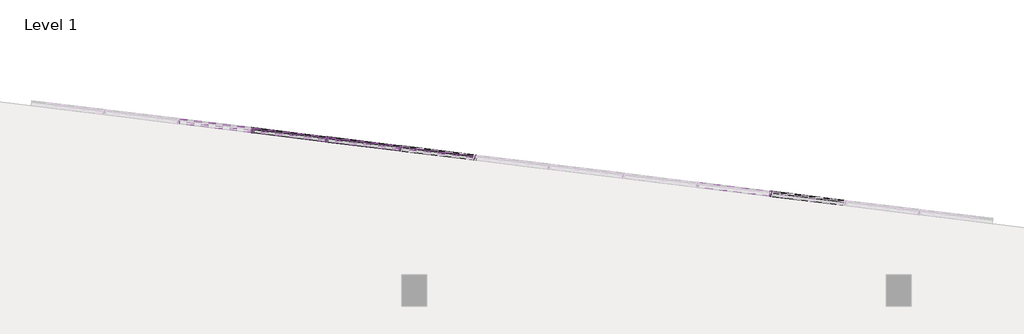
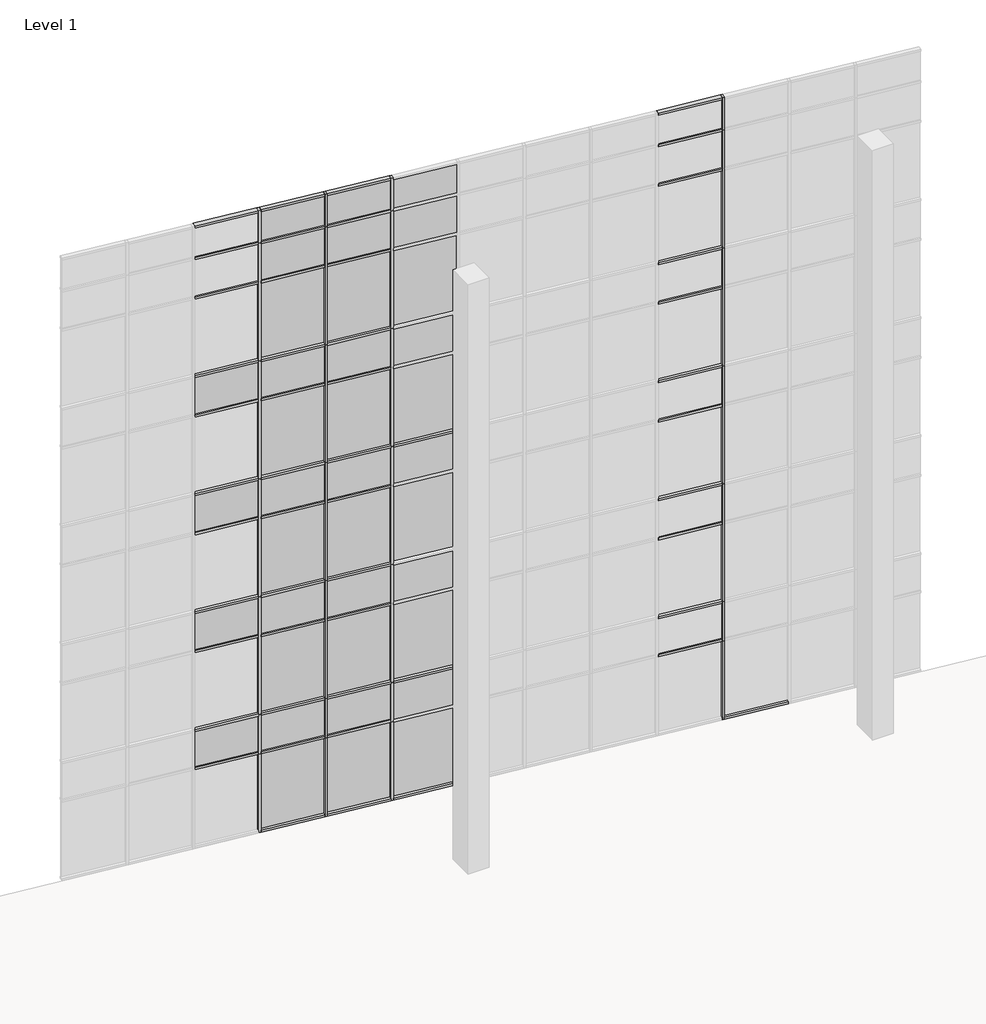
# One storey, part 18 of 23: 79 members, 37 plates.
"""IFC4 building model written with IfcOpenShell, lengths in millimetres."""

from ifc_helpers import new_model, si_unit, origin, place, context, project, spatial, transform, mapped, element, save
from components import member_2b49869a, member_f92b8aa2, member_810865a4, member_f0fea5a5, member_6d5c3e5e, member_9764dd38, system_panel_glazed_14c75400, system_panel_glazed_5b519c5a, system_panel_solid_5dfe6f83, system_panel_solid_e25e2004, system_panel_solid_b7551183

model = new_model("IFC4")

# Units and contexts
model_context = context("Model", 3, world=origin())
ifc_project = project(units=[si_unit("LENGTHUNIT", "METRE", prefix="MILLI")], contexts=[model_context])

# Site, building, storey
site = spatial("IfcSite", under=ifc_project)
building = spatial("IfcBuilding", under=site)
storey = spatial("IfcBuildingStorey", under=building, Name="Level 1", Elevation=0.0)

# Members
placement = place(None, origin())
member_shape = member_2b49869a(model_context)
element("IfcMember", 1, ObjectType="Rectangular Mullion : 2.5\" x 5\" rectangular", at=placement, inside=storey, context=model_context, shape_type="MappedRepresentation", body=[
    mapped(member_shape, transform((-12961.1731656, 13462.7931326, 2438.4), x_axis=(0.9925461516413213, -0.12186934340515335, 0.0), y_axis=(-0.12186934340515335, -0.9925461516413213, 0.0), z_axis=(0.0, 0.0, -1.0))),
])
element("IfcMember", 2, ObjectType="Rectangular Mullion : 2.5\" x 5\" rectangular", at=placement, inside=storey, context=model_context, shape_type="MappedRepresentation", body=[
    mapped(member_shape, transform((-11146.0047635, 13239.9184774, 2438.4), x_axis=(0.9925461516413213, -0.12186934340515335, 0.0), y_axis=(-0.12186934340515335, -0.9925461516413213, 0.0), z_axis=(0.0, 0.0, -1.0))),
])
element("IfcMember", 3, ObjectType="Rectangular Mullion : 2.5\" x 5\" rectangular", at=placement, inside=storey, context=model_context, shape_type="MappedRepresentation", body=[
    mapped(member_shape, transform((-254.9943507, 11902.6705461, 2438.4), x_axis=(0.9925461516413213, -0.12186934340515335, 0.0), y_axis=(-0.12186934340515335, -0.9925461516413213, 0.0), z_axis=(0.0, 0.0, -1.0))),
])
member_2_shape = member_f92b8aa2(model_context)
element("IfcMember", 4, ObjectType="Rectangular Mullion : 2.5\" x 5\" rectangular", at=placement, inside=storey, context=model_context, shape_type="MappedRepresentation", body=[
    mapped(member_2_shape, transform((-12961.1731656, 13462.7931326, 18288.0), x_axis=(0.9925461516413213, -0.12186934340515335, 0.0), y_axis=(-0.12186934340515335, -0.9925461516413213, 0.0), z_axis=(0.0, 0.0, -1.0))),
])
element("IfcMember", 5, ObjectType="Rectangular Mullion : 2.5\" x 5\" rectangular", at=placement, inside=storey, context=model_context, shape_type="MappedRepresentation", body=[
    mapped(member_2_shape, transform((-9330.8363614, 13017.0438222, 18288.0), x_axis=(0.9925461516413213, -0.12186934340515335, 0.0), y_axis=(-0.12186934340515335, -0.9925461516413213, 0.0), z_axis=(0.0, 0.0, -1.0))),
])
element("IfcMember", 6, ObjectType="Rectangular Mullion : 2.5\" x 5\" rectangular", at=placement, inside=storey, context=model_context, shape_type="MappedRepresentation", body=[
    mapped(member_2_shape, transform((-11146.0047635, 13239.9184774, 18288.0), x_axis=(0.9925461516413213, -0.12186934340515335, 0.0), y_axis=(-0.12186934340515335, -0.9925461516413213, 0.0), z_axis=(0.0, 0.0, -1.0))),
])
element("IfcMember", 7, ObjectType="Rectangular Mullion : 2.5\" x 5\" rectangular", at=placement, inside=storey, context=model_context, shape_type="MappedRepresentation", body=[
    mapped(member_2_shape, transform((-254.9943507, 11902.6705461, 18288.0), x_axis=(0.9925461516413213, -0.12186934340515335, 0.0), y_axis=(-0.12186934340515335, -0.9925461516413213, 0.0), z_axis=(0.0, 0.0, -1.0))),
])
member_3_shape = member_810865a4(model_context)
element("IfcMember", 8, ObjectType="Rectangular Mullion : 2.5\" x 5\" rectangular", at=placement, inside=storey, context=model_context, shape_type="MappedRepresentation", body=[
    mapped(member_3_shape, transform((-11146.0047635, 13239.9184774, 3657.6), x_axis=(0.9925461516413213, -0.12186934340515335, 0.0), y_axis=(-0.12186934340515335, -0.9925461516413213, 0.0), z_axis=(0.0, 0.0, -1.0))),
])
element("IfcMember", 9, ObjectType="Rectangular Mullion : 2.5\" x 5\" rectangular", at=placement, inside=storey, context=model_context, shape_type="MappedRepresentation", body=[
    mapped(member_3_shape, transform((-12961.1731656, 13462.7931326, 14630.4), x_axis=(0.9925461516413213, -0.12186934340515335, 0.0), y_axis=(-0.12186934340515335, -0.9925461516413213, 0.0), z_axis=(0.0, 0.0, -1.0))),
])
element("IfcMember", 10, ObjectType="Rectangular Mullion : 2.5\" x 5\" rectangular", at=placement, inside=storey, context=model_context, shape_type="MappedRepresentation", body=[
    mapped(member_3_shape, transform((-12961.1731656, 13462.7931326, 10972.8), x_axis=(0.9925461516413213, -0.12186934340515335, 0.0), y_axis=(-0.12186934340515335, -0.9925461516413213, 0.0), z_axis=(0.0, 0.0, -1.0))),
])
element("IfcMember", 11, ObjectType="Rectangular Mullion : 2.5\" x 5\" rectangular", at=placement, inside=storey, context=model_context, shape_type="MappedRepresentation", body=[
    mapped(member_3_shape, transform((-12961.1731656, 13462.7931326, 7315.2), x_axis=(0.9925461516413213, -0.12186934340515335, 0.0), y_axis=(-0.12186934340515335, -0.9925461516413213, 0.0), z_axis=(0.0, 0.0, -1.0))),
])
element("IfcMember", 12, ObjectType="Rectangular Mullion : 2.5\" x 5\" rectangular", at=placement, inside=storey, context=model_context, shape_type="MappedRepresentation", body=[
    mapped(member_3_shape, transform((-12961.1731656, 13462.7931326, 3657.6), x_axis=(0.9925461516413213, -0.12186934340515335, 0.0), y_axis=(-0.12186934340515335, -0.9925461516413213, 0.0), z_axis=(0.0, 0.0, -1.0))),
])
element("IfcMember", 13, ObjectType="Rectangular Mullion : 2.5\" x 5\" rectangular", at=placement, inside=storey, context=model_context, shape_type="MappedRepresentation", body=[
    mapped(member_3_shape, transform((-9330.8363614, 13017.0438222, 14630.4), x_axis=(0.9925461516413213, -0.12186934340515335, 0.0), y_axis=(-0.12186934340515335, -0.9925461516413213, 0.0), z_axis=(0.0, 0.0, -1.0))),
])
element("IfcMember", 14, ObjectType="Rectangular Mullion : 2.5\" x 5\" rectangular", at=placement, inside=storey, context=model_context, shape_type="MappedRepresentation", body=[
    mapped(member_3_shape, transform((-9330.8363614, 13017.0438222, 10972.8), x_axis=(0.9925461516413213, -0.12186934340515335, 0.0), y_axis=(-0.12186934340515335, -0.9925461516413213, 0.0), z_axis=(0.0, 0.0, -1.0))),
])
element("IfcMember", 15, ObjectType="Rectangular Mullion : 2.5\" x 5\" rectangular", at=placement, inside=storey, context=model_context, shape_type="MappedRepresentation", body=[
    mapped(member_3_shape, transform((-9330.8363614, 13017.0438222, 7315.2), x_axis=(0.9925461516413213, -0.12186934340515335, 0.0), y_axis=(-0.12186934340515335, -0.9925461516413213, 0.0), z_axis=(0.0, 0.0, -1.0))),
])
element("IfcMember", 16, ObjectType="Rectangular Mullion : 2.5\" x 5\" rectangular", at=placement, inside=storey, context=model_context, shape_type="MappedRepresentation", body=[
    mapped(member_3_shape, transform((-9330.8363614, 13017.0438222, 3657.6), x_axis=(0.9925461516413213, -0.12186934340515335, 0.0), y_axis=(-0.12186934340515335, -0.9925461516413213, 0.0), z_axis=(0.0, 0.0, -1.0))),
])
element("IfcMember", 17, ObjectType="Rectangular Mullion : 2.5\" x 5\" rectangular", at=placement, inside=storey, context=model_context, shape_type="MappedRepresentation", body=[
    mapped(member_3_shape, transform((-11146.0047635, 13239.9184774, 14630.4), x_axis=(0.9925461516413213, -0.12186934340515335, 0.0), y_axis=(-0.12186934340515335, -0.9925461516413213, 0.0), z_axis=(0.0, 0.0, -1.0))),
])
element("IfcMember", 18, ObjectType="Rectangular Mullion : 2.5\" x 5\" rectangular", at=placement, inside=storey, context=model_context, shape_type="MappedRepresentation", body=[
    mapped(member_3_shape, transform((-11146.0047635, 13239.9184774, 10972.8), x_axis=(0.9925461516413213, -0.12186934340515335, 0.0), y_axis=(-0.12186934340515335, -0.9925461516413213, 0.0), z_axis=(0.0, 0.0, -1.0))),
])
element("IfcMember", 19, ObjectType="Rectangular Mullion : 2.5\" x 5\" rectangular", at=placement, inside=storey, context=model_context, shape_type="MappedRepresentation", body=[
    mapped(member_3_shape, transform((-11146.0047635, 13239.9184774, 7315.2), x_axis=(0.9925461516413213, -0.12186934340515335, 0.0), y_axis=(-0.12186934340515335, -0.9925461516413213, 0.0), z_axis=(0.0, 0.0, -1.0))),
])
element("IfcMember", 20, ObjectType="Rectangular Mullion : 2.5\" x 5\" rectangular", at=placement, inside=storey, context=model_context, shape_type="MappedRepresentation", body=[
    mapped(member_3_shape, transform((-254.9943507, 11902.6705461, 14630.4), x_axis=(0.9925461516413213, -0.12186934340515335, 0.0), y_axis=(-0.12186934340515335, -0.9925461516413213, 0.0), z_axis=(0.0, 0.0, -1.0))),
])
element("IfcMember", 21, ObjectType="Rectangular Mullion : 2.5\" x 5\" rectangular", at=placement, inside=storey, context=model_context, shape_type="MappedRepresentation", body=[
    mapped(member_3_shape, transform((-254.9943507, 11902.6705461, 10972.8), x_axis=(0.9925461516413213, -0.12186934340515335, 0.0), y_axis=(-0.12186934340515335, -0.9925461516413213, 0.0), z_axis=(0.0, 0.0, -1.0))),
])
element("IfcMember", 22, ObjectType="Rectangular Mullion : 2.5\" x 5\" rectangular", at=placement, inside=storey, context=model_context, shape_type="MappedRepresentation", body=[
    mapped(member_3_shape, transform((-254.9943507, 11902.6705461, 7315.2), x_axis=(0.9925461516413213, -0.12186934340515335, 0.0), y_axis=(-0.12186934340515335, -0.9925461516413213, 0.0), z_axis=(0.0, 0.0, -1.0))),
])
element("IfcMember", 23, ObjectType="Rectangular Mullion : 2.5\" x 5\" rectangular", at=placement, inside=storey, context=model_context, shape_type="MappedRepresentation", body=[
    mapped(member_3_shape, transform((-254.9943507, 11902.6705461, 3657.6), x_axis=(0.9925461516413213, -0.12186934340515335, 0.0), y_axis=(-0.12186934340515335, -0.9925461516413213, 0.0), z_axis=(0.0, 0.0, -1.0))),
])
member_4_shape = member_f0fea5a5(model_context)
element("IfcMember", 24, ObjectType="Rectangular Mullion : 2.5\" x 5\" rectangular", at=placement, inside=storey, context=model_context, shape_type="MappedRepresentation", body=[
    mapped(member_4_shape, transform((-11146.0047635, 13239.9184774, 0.0), x_axis=(0.9925461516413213, -0.12186934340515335, 0.0), y_axis=(-0.12186934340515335, -0.9925461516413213, 0.0), z_axis=(0.0, 0.0, -1.0))),
])
element("IfcMember", 25, ObjectType="Rectangular Mullion : 2.5\" x 5\" rectangular", at=placement, inside=storey, context=model_context, shape_type="MappedRepresentation", body=[
    mapped(member_4_shape, transform((-12961.1731656, 13462.7931326, 0.0), x_axis=(0.9925461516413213, -0.12186934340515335, 0.0), y_axis=(-0.12186934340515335, -0.9925461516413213, 0.0), z_axis=(0.0, 0.0, -1.0))),
])
element("IfcMember", 26, ObjectType="Rectangular Mullion : 2.5\" x 5\" rectangular", at=placement, inside=storey, context=model_context, shape_type="MappedRepresentation", body=[
    mapped(member_4_shape, transform((-254.9943507, 11902.6705461, 0.0), x_axis=(0.9925461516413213, -0.12186934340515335, 0.0), y_axis=(-0.12186934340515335, -0.9925461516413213, 0.0), z_axis=(0.0, 0.0, -1.0))),
])
element("IfcMember", 27, ObjectType="Rectangular Mullion : 2.5\" x 5\" rectangular", at=placement, inside=storey, context=model_context, shape_type="MappedRepresentation", body=[
    mapped(member_4_shape, transform((-7515.6679592, 12794.169167, 0.0), x_axis=(0.9925461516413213, -0.12186934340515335, 0.0), y_axis=(-0.12186934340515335, -0.9925461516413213, 0.0), z_axis=(0.0, 0.0, -1.0))),
])
element("IfcMember", 28, ObjectType="Rectangular Mullion : 2.5\" x 5\" rectangular", at=placement, inside=storey, context=model_context, shape_type="MappedRepresentation", body=[
    mapped(member_4_shape, transform((-9330.8363614, 13017.0438222, 0.0), x_axis=(0.9925461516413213, -0.12186934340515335, 0.0), y_axis=(-0.12186934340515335, -0.9925461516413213, 0.0), z_axis=(0.0, 0.0, -1.0))),
])
element("IfcMember", 29, ObjectType="Rectangular Mullion : 2.5\" x 5\" rectangular", at=placement, inside=storey, context=model_context, shape_type="MappedRepresentation", body=[
    mapped(member_shape, transform((-9330.8363614, 13017.0438222, 2438.4), x_axis=(0.9925461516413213, -0.12186934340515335, 0.0), y_axis=(-0.12186934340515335, -0.9925461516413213, 0.0), z_axis=(0.0, 0.0, -1.0))),
])
member_5_shape = member_6d5c3e5e(model_context)
element("IfcMember", 30, ObjectType="Rectangular Mullion : 2.5\" x 5\" rectangular", at=placement, inside=storey, context=model_context, shape_type="MappedRepresentation", body=[
    mapped(member_5_shape, transform((-9362.3497017, 13020.9131738, 19304.0), x_axis=(0.0, 0.0, 1.0), y_axis=(-0.12186934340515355, -0.9925461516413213, 0.0), z_axis=(0.9925461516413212, -0.12186934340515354, 0.0))),
])
element("IfcMember", 31, ObjectType="Rectangular Mullion : 2.5\" x 5\" rectangular", at=placement, inside=storey, context=model_context, shape_type="MappedRepresentation", body=[
    mapped(member_5_shape, transform((-11177.5181038, 13243.7878291, 19304.0), x_axis=(0.0, 0.0, 1.0), y_axis=(-0.12186934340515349, -0.9925461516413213, 0.0), z_axis=(0.9925461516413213, -0.12186934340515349, 0.0))),
])
element("IfcMember", 32, ObjectType="Rectangular Mullion : 2.5\" x 5\" rectangular", at=placement, inside=storey, context=model_context, shape_type="MappedRepresentation", body=[
    mapped(member_5_shape, transform((-12992.6865059, 13466.6624843, 19304.0), x_axis=(0.0, 0.0, 1.0), y_axis=(-0.12186934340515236, -0.9925461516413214, 0.0), z_axis=(0.9925461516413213, -0.12186934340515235, 0.0))),
])
element("IfcMember", 33, ObjectType="Rectangular Mullion : 2.5\" x 5\" rectangular", at=placement, inside=storey, context=model_context, shape_type="MappedRepresentation", body=[
    mapped(member_5_shape, transform((-286.5076911, 11906.5398977, 19304.0), x_axis=(0.0, 0.0, 1.0), y_axis=(-0.12186934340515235, -0.9925461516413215, 0.0), z_axis=(0.9925461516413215, -0.12186934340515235, 0.0))),
])
member_6_shape = member_9764dd38(model_context)
element("IfcMember", 34, ObjectType="Rectangular Mullion : 2.5\" x 5\" rectangular", at=placement, inside=storey, context=model_context, shape_type="MappedRepresentation", body=[
    mapped(member_6_shape, transform((-286.5076911, 11906.5398977, 17068.8), x_axis=(0.0, 0.0, 1.0), y_axis=(-0.12186934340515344, -0.9925461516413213, 0.0), z_axis=(0.9925461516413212, -0.12186934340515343, 0.0))),
])
element("IfcMember", 35, ObjectType="Rectangular Mullion : 2.5\" x 5\" rectangular", at=placement, inside=storey, context=model_context, shape_type="MappedRepresentation", body=[
    mapped(member_6_shape, transform((-9362.3497017, 13020.9131738, 17068.8), x_axis=(0.0, 0.0, 1.0), y_axis=(-0.12186934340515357, -0.9925461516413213, 0.0), z_axis=(0.9925461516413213, -0.12186934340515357, 0.0))),
])
element("IfcMember", 36, ObjectType="Rectangular Mullion : 2.5\" x 5\" rectangular", at=placement, inside=storey, context=model_context, shape_type="MappedRepresentation", body=[
    mapped(member_6_shape, transform((-11177.5181038, 13243.7878291, 17068.8), x_axis=(0.0, 0.0, 1.0), y_axis=(-0.12186934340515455, -0.9925461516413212, 0.0), z_axis=(0.9925461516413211, -0.12186934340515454, 0.0))),
])
element("IfcMember", 37, ObjectType="Rectangular Mullion : 2.5\" x 5\" rectangular", at=placement, inside=storey, context=model_context, shape_type="MappedRepresentation", body=[
    mapped(member_6_shape, transform((-12992.6865059, 13466.6624843, 17068.8), x_axis=(0.0, 0.0, 1.0), y_axis=(-0.12186934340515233, -0.9925461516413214, 0.0), z_axis=(0.9925461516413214, -0.12186934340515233, 0.0))),
])
element("IfcMember", 38, ObjectType="Rectangular Mullion : 2.5\" x 5\" rectangular", at=placement, inside=storey, context=model_context, shape_type="MappedRepresentation", body=[
    mapped(member_6_shape, transform((-286.5076911, 11906.5398977, 13411.2), x_axis=(0.0, 0.0, 1.0), y_axis=(-0.12186934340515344, -0.9925461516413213, 0.0), z_axis=(0.9925461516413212, -0.12186934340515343, 0.0))),
])
element("IfcMember", 39, ObjectType="Rectangular Mullion : 2.5\" x 5\" rectangular", at=placement, inside=storey, context=model_context, shape_type="MappedRepresentation", body=[
    mapped(member_6_shape, transform((-9362.3497017, 13020.9131738, 13411.2), x_axis=(0.0, 0.0, 1.0), y_axis=(-0.12186934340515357, -0.9925461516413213, 0.0), z_axis=(0.9925461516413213, -0.12186934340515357, 0.0))),
])
element("IfcMember", 40, ObjectType="Rectangular Mullion : 2.5\" x 5\" rectangular", at=placement, inside=storey, context=model_context, shape_type="MappedRepresentation", body=[
    mapped(member_6_shape, transform((-11177.5181038, 13243.7878291, 13411.2), x_axis=(0.0, 0.0, 1.0), y_axis=(-0.12186934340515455, -0.9925461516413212, 0.0), z_axis=(0.9925461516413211, -0.12186934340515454, 0.0))),
])
element("IfcMember", 41, ObjectType="Rectangular Mullion : 2.5\" x 5\" rectangular", at=placement, inside=storey, context=model_context, shape_type="MappedRepresentation", body=[
    mapped(member_6_shape, transform((-12992.6865059, 13466.6624843, 13411.2), x_axis=(0.0, 0.0, 1.0), y_axis=(-0.12186934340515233, -0.9925461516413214, 0.0), z_axis=(0.9925461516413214, -0.12186934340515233, 0.0))),
])
element("IfcMember", 42, ObjectType="Rectangular Mullion : 2.5\" x 5\" rectangular", at=placement, inside=storey, context=model_context, shape_type="MappedRepresentation", body=[
    mapped(member_6_shape, transform((-286.5076911, 11906.5398977, 9753.6), x_axis=(0.0, 0.0, 1.0), y_axis=(-0.12186934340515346, -0.9925461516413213, 0.0), z_axis=(0.9925461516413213, -0.12186934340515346, 0.0))),
])
element("IfcMember", 43, ObjectType="Rectangular Mullion : 2.5\" x 5\" rectangular", at=placement, inside=storey, context=model_context, shape_type="MappedRepresentation", body=[
    mapped(member_6_shape, transform((-9362.3497017, 13020.9131738, 9753.6), x_axis=(0.0, 0.0, 1.0), y_axis=(-0.12186934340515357, -0.9925461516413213, 0.0), z_axis=(0.9925461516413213, -0.12186934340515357, 0.0))),
])
element("IfcMember", 44, ObjectType="Rectangular Mullion : 2.5\" x 5\" rectangular", at=placement, inside=storey, context=model_context, shape_type="MappedRepresentation", body=[
    mapped(member_6_shape, transform((-11177.5181038, 13243.7878291, 9753.6), x_axis=(0.0, 0.0, 1.0), y_axis=(-0.12186934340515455, -0.9925461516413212, 0.0), z_axis=(0.9925461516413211, -0.12186934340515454, 0.0))),
])
element("IfcMember", 45, ObjectType="Rectangular Mullion : 2.5\" x 5\" rectangular", at=placement, inside=storey, context=model_context, shape_type="MappedRepresentation", body=[
    mapped(member_6_shape, transform((-12992.6865059, 13466.6624843, 9753.6), x_axis=(0.0, 0.0, 1.0), y_axis=(-0.12186934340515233, -0.9925461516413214, 0.0), z_axis=(0.9925461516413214, -0.12186934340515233, 0.0))),
])
element("IfcMember", 46, ObjectType="Rectangular Mullion : 2.5\" x 5\" rectangular", at=placement, inside=storey, context=model_context, shape_type="MappedRepresentation", body=[
    mapped(member_6_shape, transform((-286.5076911, 11906.5398977, 6096.0), x_axis=(0.0, 0.0, 1.0), y_axis=(-0.12186934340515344, -0.9925461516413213, 0.0), z_axis=(0.9925461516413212, -0.12186934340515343, 0.0))),
])
element("IfcMember", 47, ObjectType="Rectangular Mullion : 2.5\" x 5\" rectangular", at=placement, inside=storey, context=model_context, shape_type="MappedRepresentation", body=[
    mapped(member_6_shape, transform((-9362.3497017, 13020.9131738, 6096.0), x_axis=(0.0, 0.0, 1.0), y_axis=(-0.12186934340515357, -0.9925461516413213, 0.0), z_axis=(0.9925461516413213, -0.12186934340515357, 0.0))),
])
element("IfcMember", 48, ObjectType="Rectangular Mullion : 2.5\" x 5\" rectangular", at=placement, inside=storey, context=model_context, shape_type="MappedRepresentation", body=[
    mapped(member_6_shape, transform((-11177.5181038, 13243.7878291, 6096.0), x_axis=(0.0, 0.0, 1.0), y_axis=(-0.12186934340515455, -0.9925461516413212, 0.0), z_axis=(0.9925461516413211, -0.12186934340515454, 0.0))),
])
element("IfcMember", 49, ObjectType="Rectangular Mullion : 2.5\" x 5\" rectangular", at=placement, inside=storey, context=model_context, shape_type="MappedRepresentation", body=[
    mapped(member_6_shape, transform((-12992.6865059, 13466.6624843, 6096.0), x_axis=(0.0, 0.0, 1.0), y_axis=(-0.12186934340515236, -0.9925461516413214, 0.0), z_axis=(0.9925461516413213, -0.12186934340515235, 0.0))),
])
element("IfcMember", 50, ObjectType="Rectangular Mullion : 2.5\" x 5\" rectangular", at=placement, inside=storey, context=model_context, shape_type="MappedRepresentation", body=[
    mapped(member_6_shape, transform((-286.5076911, 11906.5398977, 2470.15), x_axis=(0.0, 0.0, 1.0), y_axis=(-0.12186934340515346, -0.9925461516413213, 0.0), z_axis=(0.9925461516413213, -0.12186934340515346, 0.0))),
])
element("IfcMember", 51, ObjectType="Rectangular Mullion : 2.5\" x 5\" rectangular", at=placement, inside=storey, context=model_context, shape_type="MappedRepresentation", body=[
    mapped(member_6_shape, transform((-9362.3497017, 13020.9131738, 2470.15), x_axis=(0.0, 0.0, 1.0), y_axis=(-0.12186934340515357, -0.9925461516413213, 0.0), z_axis=(0.9925461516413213, -0.12186934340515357, 0.0))),
])
element("IfcMember", 52, ObjectType="Rectangular Mullion : 2.5\" x 5\" rectangular", at=placement, inside=storey, context=model_context, shape_type="MappedRepresentation", body=[
    mapped(member_6_shape, transform((-11177.5181038, 13243.7878291, 2470.15), x_axis=(0.0, 0.0, 1.0), y_axis=(-0.12186934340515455, -0.9925461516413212, 0.0), z_axis=(0.9925461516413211, -0.12186934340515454, 0.0))),
])
element("IfcMember", 53, ObjectType="Rectangular Mullion : 2.5\" x 5\" rectangular", at=placement, inside=storey, context=model_context, shape_type="MappedRepresentation", body=[
    mapped(member_6_shape, transform((-12992.6865059, 13466.6624843, 2470.15), x_axis=(0.0, 0.0, 1.0), y_axis=(-0.12186934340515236, -0.9925461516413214, 0.0), z_axis=(0.9925461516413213, -0.12186934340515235, 0.0))),
])
element("IfcMember", 54, ObjectType="Rectangular Mullion : 2.5\" x 5\" rectangular", at=placement, inside=storey, context=model_context, shape_type="MappedRepresentation", body=[
    mapped(member_5_shape, transform((-223.4810104, 11898.8011944, 0.0), x_axis=(0.0, 0.0, -1.0), y_axis=(-0.12186934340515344, -0.9925461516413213, 0.0), z_axis=(-0.9925461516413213, 0.12186934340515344, 0.0))),
])
element("IfcMember", 55, ObjectType="Rectangular Mullion : 2.5\" x 5\" rectangular", at=placement, inside=storey, context=model_context, shape_type="MappedRepresentation", body=[
    mapped(member_5_shape, transform((-11114.4914232, 13236.0491257, 0.0), x_axis=(0.0, 0.0, -1.0), y_axis=(-0.12186934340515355, -0.9925461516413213, 0.0), z_axis=(-0.9925461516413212, 0.12186934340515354, 0.0))),
])
element("IfcMember", 56, ObjectType="Rectangular Mullion : 2.5\" x 5\" rectangular", at=placement, inside=storey, context=model_context, shape_type="MappedRepresentation", body=[
    mapped(member_5_shape, transform((-12929.6598253, 13458.923781, 0.0), x_axis=(0.0, 0.0, -1.0), y_axis=(-0.12186934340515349, -0.9925461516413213, 0.0), z_axis=(-0.9925461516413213, 0.12186934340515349, 0.0))),
])
element("IfcMember", 57, ObjectType="Rectangular Mullion : 2.5\" x 5\" rectangular", at=placement, inside=storey, context=model_context, shape_type="MappedRepresentation", body=[
    mapped(member_5_shape, transform((-9299.323021, 13013.1744705, 0.0), x_axis=(0.0, 0.0, -1.0), y_axis=(-0.12186934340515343, -0.9925461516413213, 0.0), z_axis=(-0.9925461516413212, 0.12186934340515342, 0.0))),
])
element("IfcMember", 58, ObjectType="Rectangular Mullion : 2.5\" x 5\" rectangular", at=placement, inside=storey, context=model_context, shape_type="MappedRepresentation", body=[
    mapped(member_6_shape, transform((-286.5076911, 11906.5398977, 3657.6), x_axis=(0.0, 0.0, 1.0), y_axis=(-0.12186934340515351, -0.9925461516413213, 0.0), z_axis=(0.9925461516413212, -0.1218693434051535, 0.0))),
])
element("IfcMember", 59, ObjectType="Rectangular Mullion : 2.5\" x 5\" rectangular", at=placement, inside=storey, context=model_context, shape_type="MappedRepresentation", body=[
    mapped(member_6_shape, transform((-7547.1812995, 12798.0385186, 3657.6), x_axis=(0.0, 0.0, 1.0), y_axis=(-0.12186934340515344, -0.9925461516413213, 0.0), z_axis=(0.9925461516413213, -0.12186934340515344, 0.0))),
])
element("IfcMember", 60, ObjectType="Rectangular Mullion : 2.5\" x 5\" rectangular", at=placement, inside=storey, context=model_context, shape_type="MappedRepresentation", body=[
    mapped(member_6_shape, transform((-9362.3497017, 13020.9131738, 3657.6), x_axis=(0.0, 0.0, 1.0), y_axis=(-0.12186934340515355, -0.9925461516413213, 0.0), z_axis=(0.9925461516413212, -0.12186934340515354, 0.0))),
])
element("IfcMember", 61, ObjectType="Rectangular Mullion : 2.5\" x 5\" rectangular", at=placement, inside=storey, context=model_context, shape_type="MappedRepresentation", body=[
    mapped(member_6_shape, transform((-11177.5181038, 13243.7878291, 3657.6), x_axis=(0.0, 0.0, 1.0), y_axis=(-0.12186934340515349, -0.9925461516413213, 0.0), z_axis=(0.9925461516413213, -0.12186934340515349, 0.0))),
])
element("IfcMember", 62, ObjectType="Rectangular Mullion : 2.5\" x 5\" rectangular", at=placement, inside=storey, context=model_context, shape_type="MappedRepresentation", body=[
    mapped(member_6_shape, transform((-12992.6865059, 13466.6624843, 3657.6), x_axis=(0.0, 0.0, 1.0), y_axis=(-0.12186934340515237, -0.9925461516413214, 0.0), z_axis=(0.9925461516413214, -0.12186934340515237, 0.0))),
])
element("IfcMember", 63, ObjectType="Rectangular Mullion : 2.5\" x 5\" rectangular", at=placement, inside=storey, context=model_context, shape_type="MappedRepresentation", body=[
    mapped(member_6_shape, transform((-286.5076911, 11906.5398977, 10972.8), x_axis=(0.0, 0.0, 1.0), y_axis=(-0.12186934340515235, -0.9925461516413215, 0.0), z_axis=(0.9925461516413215, -0.12186934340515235, 0.0))),
])
element("IfcMember", 64, ObjectType="Rectangular Mullion : 2.5\" x 5\" rectangular", at=placement, inside=storey, context=model_context, shape_type="MappedRepresentation", body=[
    mapped(member_6_shape, transform((-7547.1812995, 12798.0385186, 10972.8), x_axis=(0.0, 0.0, 1.0), y_axis=(-0.12186934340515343, -0.9925461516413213, 0.0), z_axis=(0.9925461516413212, -0.12186934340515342, 0.0))),
])
element("IfcMember", 65, ObjectType="Rectangular Mullion : 2.5\" x 5\" rectangular", at=placement, inside=storey, context=model_context, shape_type="MappedRepresentation", body=[
    mapped(member_6_shape, transform((-9362.3497017, 13020.9131738, 10972.8), x_axis=(0.0, 0.0, 1.0), y_axis=(-0.12186934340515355, -0.9925461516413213, 0.0), z_axis=(0.9925461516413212, -0.12186934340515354, 0.0))),
])
element("IfcMember", 66, ObjectType="Rectangular Mullion : 2.5\" x 5\" rectangular", at=placement, inside=storey, context=model_context, shape_type="MappedRepresentation", body=[
    mapped(member_6_shape, transform((-11177.5181038, 13243.7878291, 10972.8), x_axis=(0.0, 0.0, 1.0), y_axis=(-0.12186934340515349, -0.9925461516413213, 0.0), z_axis=(0.9925461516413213, -0.12186934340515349, 0.0))),
])
element("IfcMember", 67, ObjectType="Rectangular Mullion : 2.5\" x 5\" rectangular", at=placement, inside=storey, context=model_context, shape_type="MappedRepresentation", body=[
    mapped(member_6_shape, transform((-12992.6865059, 13466.6624843, 10972.8), x_axis=(0.0, 0.0, 1.0), y_axis=(-0.12186934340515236, -0.9925461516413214, 0.0), z_axis=(0.9925461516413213, -0.12186934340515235, 0.0))),
])
element("IfcMember", 68, ObjectType="Rectangular Mullion : 2.5\" x 5\" rectangular", at=placement, inside=storey, context=model_context, shape_type="MappedRepresentation", body=[
    mapped(member_6_shape, transform((-286.5076911, 11906.5398977, 14630.4), x_axis=(0.0, 0.0, 1.0), y_axis=(-0.12186934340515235, -0.9925461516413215, 0.0), z_axis=(0.9925461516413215, -0.12186934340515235, 0.0))),
])
element("IfcMember", 69, ObjectType="Rectangular Mullion : 2.5\" x 5\" rectangular", at=placement, inside=storey, context=model_context, shape_type="MappedRepresentation", body=[
    mapped(member_6_shape, transform((-9362.3497017, 13020.9131738, 14630.4), x_axis=(0.0, 0.0, 1.0), y_axis=(-0.12186934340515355, -0.9925461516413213, 0.0), z_axis=(0.9925461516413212, -0.12186934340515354, 0.0))),
])
element("IfcMember", 70, ObjectType="Rectangular Mullion : 2.5\" x 5\" rectangular", at=placement, inside=storey, context=model_context, shape_type="MappedRepresentation", body=[
    mapped(member_6_shape, transform((-11177.5181038, 13243.7878291, 14630.4), x_axis=(0.0, 0.0, 1.0), y_axis=(-0.12186934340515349, -0.9925461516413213, 0.0), z_axis=(0.9925461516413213, -0.12186934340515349, 0.0))),
])
element("IfcMember", 71, ObjectType="Rectangular Mullion : 2.5\" x 5\" rectangular", at=placement, inside=storey, context=model_context, shape_type="MappedRepresentation", body=[
    mapped(member_6_shape, transform((-12992.6865059, 13466.6624843, 14630.4), x_axis=(0.0, 0.0, 1.0), y_axis=(-0.12186934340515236, -0.9925461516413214, 0.0), z_axis=(0.9925461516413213, -0.12186934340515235, 0.0))),
])
element("IfcMember", 72, ObjectType="Rectangular Mullion : 2.5\" x 5\" rectangular", at=placement, inside=storey, context=model_context, shape_type="MappedRepresentation", body=[
    mapped(member_6_shape, transform((-286.5076911, 11906.5398977, 7315.2), x_axis=(0.0, 0.0, 1.0), y_axis=(-0.12186934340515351, -0.9925461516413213, 0.0), z_axis=(0.9925461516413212, -0.1218693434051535, 0.0))),
])
element("IfcMember", 73, ObjectType="Rectangular Mullion : 2.5\" x 5\" rectangular", at=placement, inside=storey, context=model_context, shape_type="MappedRepresentation", body=[
    mapped(member_6_shape, transform((-9362.3497017, 13020.9131738, 7315.2), x_axis=(0.0, 0.0, 1.0), y_axis=(-0.12186934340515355, -0.9925461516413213, 0.0), z_axis=(0.9925461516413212, -0.12186934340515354, 0.0))),
])
element("IfcMember", 74, ObjectType="Rectangular Mullion : 2.5\" x 5\" rectangular", at=placement, inside=storey, context=model_context, shape_type="MappedRepresentation", body=[
    mapped(member_6_shape, transform((-11177.5181038, 13243.7878291, 7315.2), x_axis=(0.0, 0.0, 1.0), y_axis=(-0.12186934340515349, -0.9925461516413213, 0.0), z_axis=(0.9925461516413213, -0.12186934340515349, 0.0))),
])
element("IfcMember", 75, ObjectType="Rectangular Mullion : 2.5\" x 5\" rectangular", at=placement, inside=storey, context=model_context, shape_type="MappedRepresentation", body=[
    mapped(member_6_shape, transform((-12992.6865059, 13466.6624843, 7315.2), x_axis=(0.0, 0.0, 1.0), y_axis=(-0.12186934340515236, -0.9925461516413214, 0.0), z_axis=(0.9925461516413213, -0.12186934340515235, 0.0))),
])
element("IfcMember", 76, ObjectType="Rectangular Mullion : 2.5\" x 5\" rectangular", at=placement, inside=storey, context=model_context, shape_type="MappedRepresentation", body=[
    mapped(member_6_shape, transform((-12992.6865059, 13466.6624843, 18288.0), x_axis=(0.0, 0.0, 1.0), y_axis=(-0.12186934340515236, -0.9925461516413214, 0.0), z_axis=(0.9925461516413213, -0.12186934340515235, 0.0))),
])
element("IfcMember", 77, ObjectType="Rectangular Mullion : 2.5\" x 5\" rectangular", at=placement, inside=storey, context=model_context, shape_type="MappedRepresentation", body=[
    mapped(member_6_shape, transform((-286.5076911, 11906.5398977, 18288.0), x_axis=(0.0, 0.0, 1.0), y_axis=(-0.12186934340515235, -0.9925461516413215, 0.0), z_axis=(0.9925461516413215, -0.12186934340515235, 0.0))),
])
element("IfcMember", 78, ObjectType="Rectangular Mullion : 2.5\" x 5\" rectangular", at=placement, inside=storey, context=model_context, shape_type="MappedRepresentation", body=[
    mapped(member_6_shape, transform((-9362.3497017, 13020.9131738, 18288.0), x_axis=(0.0, 0.0, 1.0), y_axis=(-0.12186934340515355, -0.9925461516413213, 0.0), z_axis=(0.9925461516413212, -0.12186934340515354, 0.0))),
])
element("IfcMember", 79, ObjectType="Rectangular Mullion : 2.5\" x 5\" rectangular", at=placement, inside=storey, context=model_context, shape_type="MappedRepresentation", body=[
    mapped(member_6_shape, transform((-11177.5181038, 13243.7878291, 18288.0), x_axis=(0.0, 0.0, 1.0), y_axis=(-0.12186934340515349, -0.9925461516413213, 0.0), z_axis=(0.9925461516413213, -0.12186934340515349, 0.0))),
])

# Plates
system_panel_glazed_shape = system_panel_glazed_14c75400(model_context)
element("IfcPlate", 80, ObjectType="System Panel : Glazed", at=placement, inside=storey, context=model_context, shape_type="MappedRepresentation", body=[
    mapped(system_panel_glazed_shape, transform((-8423.2521603, 12905.6064946, 14662.15), x_axis=(0.9925461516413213, -0.12186934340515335, 0.0), y_axis=(0.12186934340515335, 0.9925461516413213, 0.0), z_axis=(0.0, 0.0, 1.0))),
])
element("IfcPlate", 81, ObjectType="System Panel : Glazed", at=placement, inside=storey, context=model_context, shape_type="MappedRepresentation", body=[
    mapped(system_panel_glazed_shape, transform((-10238.4205624, 13128.4811498, 14662.15), x_axis=(0.9925461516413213, -0.12186934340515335, 0.0), y_axis=(0.12186934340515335, 0.9925461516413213, 0.0), z_axis=(0.0, 0.0, 1.0))),
])
element("IfcPlate", 82, ObjectType="System Panel : Glazed", at=placement, inside=storey, context=model_context, shape_type="MappedRepresentation", body=[
    mapped(system_panel_glazed_shape, transform((-12053.5889645, 13351.355805, 14662.15), x_axis=(0.9925461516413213, -0.12186934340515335, 0.0), y_axis=(0.12186934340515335, 0.9925461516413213, 0.0), z_axis=(0.0, 0.0, 1.0))),
])
element("IfcPlate", 83, ObjectType="System Panel : Glazed", at=placement, inside=storey, context=model_context, shape_type="MappedRepresentation", body=[
    mapped(system_panel_glazed_shape, transform((-8423.2521603, 12905.6064946, 11004.55), x_axis=(0.9925461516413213, -0.12186934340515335, 0.0), y_axis=(0.12186934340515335, 0.9925461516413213, 0.0), z_axis=(0.0, 0.0, 1.0))),
])
element("IfcPlate", 84, ObjectType="System Panel : Glazed", at=placement, inside=storey, context=model_context, shape_type="MappedRepresentation", body=[
    mapped(system_panel_glazed_shape, transform((-10238.4205624, 13128.4811498, 11004.55), x_axis=(0.9925461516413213, -0.12186934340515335, 0.0), y_axis=(0.12186934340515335, 0.9925461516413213, 0.0), z_axis=(0.0, 0.0, 1.0))),
])
element("IfcPlate", 85, ObjectType="System Panel : Glazed", at=placement, inside=storey, context=model_context, shape_type="MappedRepresentation", body=[
    mapped(system_panel_glazed_shape, transform((-12053.5889645, 13351.355805, 11004.55), x_axis=(0.9925461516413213, -0.12186934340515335, 0.0), y_axis=(0.12186934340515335, 0.9925461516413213, 0.0), z_axis=(0.0, 0.0, 1.0))),
])
element("IfcPlate", 86, ObjectType="System Panel : Glazed", at=placement, inside=storey, context=model_context, shape_type="MappedRepresentation", body=[
    mapped(system_panel_glazed_shape, transform((-8423.2521603, 12905.6064946, 7346.95), x_axis=(0.9925461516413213, -0.12186934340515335, 0.0), y_axis=(0.12186934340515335, 0.9925461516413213, 0.0), z_axis=(0.0, 0.0, 1.0))),
])
element("IfcPlate", 87, ObjectType="System Panel : Glazed", at=placement, inside=storey, context=model_context, shape_type="MappedRepresentation", body=[
    mapped(system_panel_glazed_shape, transform((-10238.4205624, 13128.4811498, 7346.95), x_axis=(0.9925461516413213, -0.12186934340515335, 0.0), y_axis=(0.12186934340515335, 0.9925461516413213, 0.0), z_axis=(0.0, 0.0, 1.0))),
])
element("IfcPlate", 88, ObjectType="System Panel : Glazed", at=placement, inside=storey, context=model_context, shape_type="MappedRepresentation", body=[
    mapped(system_panel_glazed_shape, transform((-12053.5889645, 13351.355805, 7346.95), x_axis=(0.9925461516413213, -0.12186934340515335, 0.0), y_axis=(0.12186934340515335, 0.9925461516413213, 0.0), z_axis=(0.0, 0.0, 1.0))),
])
element("IfcPlate", 89, ObjectType="System Panel : Glazed", at=placement, inside=storey, context=model_context, shape_type="MappedRepresentation", body=[
    mapped(system_panel_glazed_shape, transform((-8423.2521603, 12905.6064946, 3689.35), x_axis=(0.9925461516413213, -0.12186934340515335, 0.0), y_axis=(0.12186934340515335, 0.9925461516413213, 0.0), z_axis=(0.0, 0.0, 1.0))),
])
element("IfcPlate", 90, ObjectType="System Panel : Glazed", at=placement, inside=storey, context=model_context, shape_type="MappedRepresentation", body=[
    mapped(system_panel_glazed_shape, transform((-10238.4205624, 13128.4811498, 3689.35), x_axis=(0.9925461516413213, -0.12186934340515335, 0.0), y_axis=(0.12186934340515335, 0.9925461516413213, 0.0), z_axis=(0.0, 0.0, 1.0))),
])
element("IfcPlate", 91, ObjectType="System Panel : Glazed", at=placement, inside=storey, context=model_context, shape_type="MappedRepresentation", body=[
    mapped(system_panel_glazed_shape, transform((-12053.5889645, 13351.355805, 3689.35), x_axis=(0.9925461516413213, -0.12186934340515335, 0.0), y_axis=(0.12186934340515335, 0.9925461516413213, 0.0), z_axis=(0.0, 0.0, 1.0))),
])
element("IfcPlate", 92, ObjectType="System Panel : Glazed", at=placement, inside=storey, context=model_context, shape_type="MappedRepresentation", body=[
    mapped(system_panel_glazed_shape, transform((-10238.4205624, 13128.4811498, 63.5), x_axis=(0.9925461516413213, -0.12186934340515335, 0.0), y_axis=(0.12186934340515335, 0.9925461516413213, 0.0), z_axis=(0.0, 0.0, 1.0))),
])
element("IfcPlate", 93, ObjectType="System Panel : Glazed", at=placement, inside=storey, context=model_context, shape_type="MappedRepresentation", body=[
    mapped(system_panel_glazed_shape, transform((-12053.5889645, 13351.355805, 63.5), x_axis=(0.9925461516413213, -0.12186934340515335, 0.0), y_axis=(0.12186934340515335, 0.9925461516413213, 0.0), z_axis=(0.0, 0.0, 1.0))),
])
system_panel_glazed_2_shape = system_panel_glazed_5b519c5a(model_context)
element("IfcPlate", 94, ObjectType="System Panel : Glazed", at=placement, inside=storey, context=model_context, shape_type="MappedRepresentation", body=[
    mapped(system_panel_glazed_2_shape, transform((-8423.2521603, 12905.6064946, 63.5), x_axis=(0.9925461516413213, -0.12186934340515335, 0.0), y_axis=(0.12186934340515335, 0.9925461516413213, 0.0), z_axis=(0.0, 0.0, 1.0))),
])
system_panel_solid_shape = system_panel_solid_5dfe6f83(model_context)
element("IfcPlate", 95, ObjectType="System Panel : Solid", at=placement, inside=storey, context=model_context, shape_type="MappedRepresentation", body=[
    mapped(system_panel_solid_shape, transform((-12053.5889645, 13351.355805, 18319.75), x_axis=(0.9925461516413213, -0.12186934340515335, 0.0), y_axis=(0.12186934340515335, 0.9925461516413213, 0.0), z_axis=(0.0, 0.0, 1.0))),
])
element("IfcPlate", 96, ObjectType="System Panel : Solid", at=placement, inside=storey, context=model_context, shape_type="MappedRepresentation", body=[
    mapped(system_panel_solid_shape, transform((-10238.4205624, 13128.4811498, 18319.75), x_axis=(0.9925461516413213, -0.12186934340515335, 0.0), y_axis=(0.12186934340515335, 0.9925461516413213, 0.0), z_axis=(0.0, 0.0, 1.0))),
])
element("IfcPlate", 97, ObjectType="System Panel : Solid", at=placement, inside=storey, context=model_context, shape_type="MappedRepresentation", body=[
    mapped(system_panel_solid_shape, transform((-8423.2521603, 12905.6064946, 18319.75), x_axis=(0.9925461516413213, -0.12186934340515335, 0.0), y_axis=(0.12186934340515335, 0.9925461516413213, 0.0), z_axis=(0.0, 0.0, 1.0))),
])
system_panel_solid_2_shape = system_panel_solid_e25e2004(model_context)
element("IfcPlate", 98, ObjectType="System Panel : Solid", at=placement, inside=storey, context=model_context, shape_type="MappedRepresentation", body=[
    mapped(system_panel_solid_2_shape, transform((-8423.2521603, 12905.6064946, 2470.15), x_axis=(0.9925461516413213, -0.12186934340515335, 0.0), y_axis=(0.12186934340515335, 0.9925461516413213, 0.0), z_axis=(0.0, 0.0, 1.0))),
])
element("IfcPlate", 99, ObjectType="System Panel : Solid", at=placement, inside=storey, context=model_context, shape_type="MappedRepresentation", body=[
    mapped(system_panel_solid_2_shape, transform((-8423.2521603, 12905.6064946, 17100.55), x_axis=(0.9925461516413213, -0.12186934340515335, 0.0), y_axis=(0.12186934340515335, 0.9925461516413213, 0.0), z_axis=(0.0, 0.0, 1.0))),
])
element("IfcPlate", 100, ObjectType="System Panel : Solid", at=placement, inside=storey, context=model_context, shape_type="MappedRepresentation", body=[
    mapped(system_panel_solid_2_shape, transform((-10238.4205624, 13128.4811498, 17100.55), x_axis=(0.9925461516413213, -0.12186934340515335, 0.0), y_axis=(0.12186934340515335, 0.9925461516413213, 0.0), z_axis=(0.0, 0.0, 1.0))),
])
element("IfcPlate", 101, ObjectType="System Panel : Solid", at=placement, inside=storey, context=model_context, shape_type="MappedRepresentation", body=[
    mapped(system_panel_solid_2_shape, transform((-12053.5889645, 13351.355805, 17100.55), x_axis=(0.9925461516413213, -0.12186934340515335, 0.0), y_axis=(0.12186934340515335, 0.9925461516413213, 0.0), z_axis=(0.0, 0.0, 1.0))),
])
element("IfcPlate", 102, ObjectType="System Panel : Solid", at=placement, inside=storey, context=model_context, shape_type="MappedRepresentation", body=[
    mapped(system_panel_solid_2_shape, transform((-8423.2521603, 12905.6064946, 13442.95), x_axis=(0.9925461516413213, -0.12186934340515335, 0.0), y_axis=(0.12186934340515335, 0.9925461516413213, 0.0), z_axis=(0.0, 0.0, 1.0))),
])
element("IfcPlate", 103, ObjectType="System Panel : Solid", at=placement, inside=storey, context=model_context, shape_type="MappedRepresentation", body=[
    mapped(system_panel_solid_2_shape, transform((-10238.4205624, 13128.4811498, 13442.95), x_axis=(0.9925461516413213, -0.12186934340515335, 0.0), y_axis=(0.12186934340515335, 0.9925461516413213, 0.0), z_axis=(0.0, 0.0, 1.0))),
])
element("IfcPlate", 104, ObjectType="System Panel : Solid", at=placement, inside=storey, context=model_context, shape_type="MappedRepresentation", body=[
    mapped(system_panel_solid_2_shape, transform((-12053.5889645, 13351.355805, 13442.95), x_axis=(0.9925461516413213, -0.12186934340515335, 0.0), y_axis=(0.12186934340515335, 0.9925461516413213, 0.0), z_axis=(0.0, 0.0, 1.0))),
])
element("IfcPlate", 105, ObjectType="System Panel : Solid", at=placement, inside=storey, context=model_context, shape_type="MappedRepresentation", body=[
    mapped(system_panel_solid_2_shape, transform((-13868.7573667, 13574.2304602, 13442.95), x_axis=(0.9925461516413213, -0.12186934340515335, 0.0), y_axis=(0.12186934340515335, 0.9925461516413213, 0.0), z_axis=(0.0, 0.0, 1.0))),
])
element("IfcPlate", 106, ObjectType="System Panel : Solid", at=placement, inside=storey, context=model_context, shape_type="MappedRepresentation", body=[
    mapped(system_panel_solid_2_shape, transform((-8423.2521603, 12905.6064946, 9785.35), x_axis=(0.9925461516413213, -0.12186934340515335, 0.0), y_axis=(0.12186934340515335, 0.9925461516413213, 0.0), z_axis=(0.0, 0.0, 1.0))),
])
element("IfcPlate", 107, ObjectType="System Panel : Solid", at=placement, inside=storey, context=model_context, shape_type="MappedRepresentation", body=[
    mapped(system_panel_solid_2_shape, transform((-10238.4205624, 13128.4811498, 9785.35), x_axis=(0.9925461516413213, -0.12186934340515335, 0.0), y_axis=(0.12186934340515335, 0.9925461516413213, 0.0), z_axis=(0.0, 0.0, 1.0))),
])
element("IfcPlate", 108, ObjectType="System Panel : Solid", at=placement, inside=storey, context=model_context, shape_type="MappedRepresentation", body=[
    mapped(system_panel_solid_2_shape, transform((-12053.5889645, 13351.355805, 9785.35), x_axis=(0.9925461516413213, -0.12186934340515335, 0.0), y_axis=(0.12186934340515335, 0.9925461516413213, 0.0), z_axis=(0.0, 0.0, 1.0))),
])
element("IfcPlate", 109, ObjectType="System Panel : Solid", at=placement, inside=storey, context=model_context, shape_type="MappedRepresentation", body=[
    mapped(system_panel_solid_2_shape, transform((-13868.7573667, 13574.2304602, 9785.35), x_axis=(0.9925461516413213, -0.12186934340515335, 0.0), y_axis=(0.12186934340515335, 0.9925461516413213, 0.0), z_axis=(0.0, 0.0, 1.0))),
])
element("IfcPlate", 110, ObjectType="System Panel : Solid", at=placement, inside=storey, context=model_context, shape_type="MappedRepresentation", body=[
    mapped(system_panel_solid_2_shape, transform((-8423.2521603, 12905.6064946, 6127.75), x_axis=(0.9925461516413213, -0.12186934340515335, 0.0), y_axis=(0.12186934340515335, 0.9925461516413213, 0.0), z_axis=(0.0, 0.0, 1.0))),
])
element("IfcPlate", 111, ObjectType="System Panel : Solid", at=placement, inside=storey, context=model_context, shape_type="MappedRepresentation", body=[
    mapped(system_panel_solid_2_shape, transform((-10238.4205624, 13128.4811498, 6127.75), x_axis=(0.9925461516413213, -0.12186934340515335, 0.0), y_axis=(0.12186934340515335, 0.9925461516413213, 0.0), z_axis=(0.0, 0.0, 1.0))),
])
element("IfcPlate", 112, ObjectType="System Panel : Solid", at=placement, inside=storey, context=model_context, shape_type="MappedRepresentation", body=[
    mapped(system_panel_solid_2_shape, transform((-12053.5889645, 13351.355805, 6127.75), x_axis=(0.9925461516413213, -0.12186934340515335, 0.0), y_axis=(0.12186934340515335, 0.9925461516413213, 0.0), z_axis=(0.0, 0.0, 1.0))),
])
element("IfcPlate", 113, ObjectType="System Panel : Solid", at=placement, inside=storey, context=model_context, shape_type="MappedRepresentation", body=[
    mapped(system_panel_solid_2_shape, transform((-13868.7573667, 13574.2304602, 6127.75), x_axis=(0.9925461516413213, -0.12186934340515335, 0.0), y_axis=(0.12186934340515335, 0.9925461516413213, 0.0), z_axis=(0.0, 0.0, 1.0))),
])
system_panel_solid_3_shape = system_panel_solid_b7551183(model_context)
element("IfcPlate", 114, ObjectType="System Panel : Solid", at=placement, inside=storey, context=model_context, shape_type="MappedRepresentation", body=[
    mapped(system_panel_solid_3_shape, transform((-10238.4205624, 13128.4811498, 2501.9), x_axis=(0.9925461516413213, -0.12186934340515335, 0.0), y_axis=(0.12186934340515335, 0.9925461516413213, 0.0), z_axis=(0.0, 0.0, 1.0))),
])
element("IfcPlate", 115, ObjectType="System Panel : Solid", at=placement, inside=storey, context=model_context, shape_type="MappedRepresentation", body=[
    mapped(system_panel_solid_3_shape, transform((-12053.5889645, 13351.355805, 2501.9), x_axis=(0.9925461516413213, -0.12186934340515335, 0.0), y_axis=(0.12186934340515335, 0.9925461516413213, 0.0), z_axis=(0.0, 0.0, 1.0))),
])
element("IfcPlate", 116, ObjectType="System Panel : Solid", at=placement, inside=storey, context=model_context, shape_type="MappedRepresentation", body=[
    mapped(system_panel_solid_3_shape, transform((-13868.7573667, 13574.2304602, 2501.9), x_axis=(0.9925461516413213, -0.12186934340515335, 0.0), y_axis=(0.12186934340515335, 0.9925461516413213, 0.0), z_axis=(0.0, 0.0, 1.0))),
])

save(model, "model.ifc")
